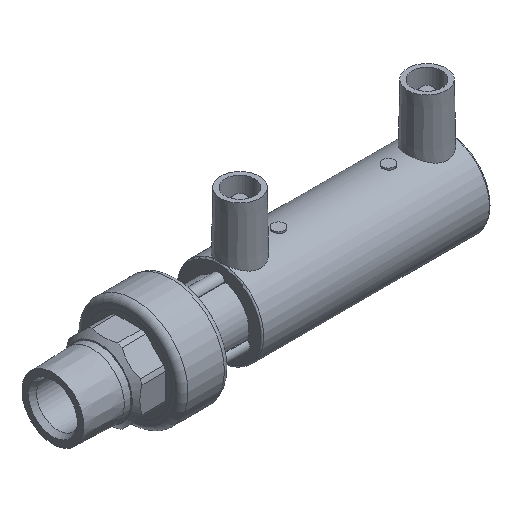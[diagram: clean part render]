
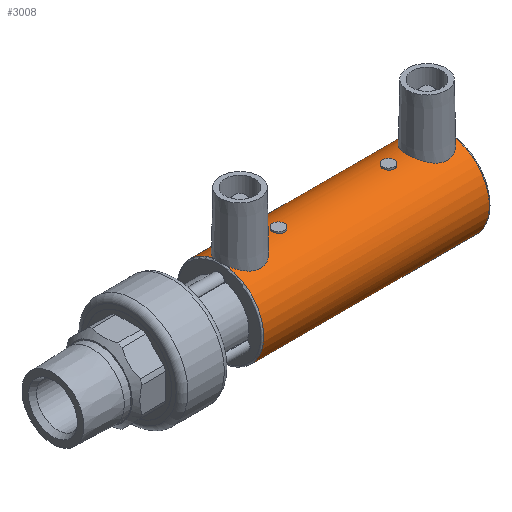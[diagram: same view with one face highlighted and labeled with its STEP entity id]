
A CAD part, isometric view. The second image highlights one B-rep face of the part: STEP entity #3008.
In plain terms, the highlighted cylindrical face has radius 14.5 mm (diameter 29 mm), a full revolution.
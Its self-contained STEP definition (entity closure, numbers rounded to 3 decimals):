
#567=CIRCLE('',#3757,14.5);
#568=CIRCLE('',#3758,14.5);
#766=ORIENTED_EDGE('',*,*,#1628,.F.);
#767=ORIENTED_EDGE('',*,*,#1629,.F.);
#768=ORIENTED_EDGE('',*,*,#1630,.T.);
#769=ORIENTED_EDGE('',*,*,#1631,.T.);
#770=ORIENTED_EDGE('',*,*,#1632,.T.);
#771=ORIENTED_EDGE('',*,*,#1633,.T.);
#1628=EDGE_CURVE('',#2059,#2059,#2360,.T.);
#1629=EDGE_CURVE('',#2060,#2060,#2361,.T.);
#1630=EDGE_CURVE('',#2061,#2062,#567,.F.);
#1631=EDGE_CURVE('',#2062,#2061,#2362,.T.);
#1632=EDGE_CURVE('',#2063,#2064,#568,.F.);
#1633=EDGE_CURVE('',#2064,#2063,#2363,.T.);
#2059=VERTEX_POINT('',#5132);
#2060=VERTEX_POINT('',#5144);
#2061=VERTEX_POINT('',#5146);
#2062=VERTEX_POINT('',#5147);
#2063=VERTEX_POINT('',#5168);
#2064=VERTEX_POINT('',#5169);
#2360=B_SPLINE_CURVE_WITH_KNOTS('',3,(#5121,#5122,#5123,#5124,#5125,#5126,
#5127,#5128,#5129,#5130,#5131),.UNSPECIFIED.,.T.,.F.,(1,1,1,1,1,1,1,1,1,
1,1,1,1,1,1),(-0.005,-0.003,-0.002,
0.,0.002,0.003,0.005,
0.006,0.008,0.009,0.011,
0.013,0.014,0.016,0.017),
 .UNSPECIFIED.);
#2361=B_SPLINE_CURVE_WITH_KNOTS('',3,(#5133,#5134,#5135,#5136,#5137,#5138,
#5139,#5140,#5141,#5142,#5143),.UNSPECIFIED.,.T.,.F.,(1,1,1,1,1,1,1,1,1,
1,1,1,1,1,1),(-0.005,-0.003,-0.002,
0.,0.002,0.003,0.005,
0.006,0.008,0.009,0.011,
0.013,0.014,0.016,0.017),
 .UNSPECIFIED.);
#2362=B_SPLINE_CURVE_WITH_KNOTS('',3,(#5148,#5149,#5150,#5151,#5152,#5153,
#5154,#5155,#5156,#5157,#5158,#5159,#5160,#5161,#5162,#5163,#5164,#5165,
#5166),.UNSPECIFIED.,.F.,.F.,(4,1,1,1,1,1,1,1,1,1,1,1,1,1,1,1,4),(0.,
0.002,0.005,0.007,0.01,
0.012,0.015,0.017,0.02,
0.022,0.024,0.027,0.029,
0.032,0.034,0.037,0.039),
 .UNSPECIFIED.);
#2363=B_SPLINE_CURVE_WITH_KNOTS('',3,(#5170,#5171,#5172,#5173,#5174,#5175,
#5176,#5177,#5178,#5179,#5180,#5181,#5182,#5183,#5184,#5185,#5186,#5187,
#5188),.UNSPECIFIED.,.F.,.F.,(4,1,1,1,1,1,1,1,1,1,1,1,1,1,1,1,4),(0.,
0.002,0.005,0.007,0.01,
0.012,0.015,0.017,0.02,
0.022,0.024,0.027,0.029,
0.032,0.034,0.037,0.039),
 .UNSPECIFIED.);
#2404=EDGE_LOOP('',(#766));
#2405=EDGE_LOOP('',(#767));
#2406=EDGE_LOOP('',(#768,#769));
#2407=EDGE_LOOP('',(#770,#771));
#2680=FACE_BOUND('',#2404,.T.);
#2681=FACE_BOUND('',#2405,.T.);
#2682=FACE_BOUND('',#2406,.T.);
#2683=FACE_BOUND('',#2407,.T.);
#2956=CYLINDRICAL_SURFACE('',#3756,14.5);
#3008=ADVANCED_FACE('',(#2680,#2681,#2682,#2683),#2956,.T.);
#3756=AXIS2_PLACEMENT_3D('',#5120,#4149,#4150);
#3757=AXIS2_PLACEMENT_3D('',#5145,#4151,#4152);
#3758=AXIS2_PLACEMENT_3D('',#5167,#4153,#4154);
#4149=DIRECTION('',(-1.,0.,0.));
#4150=DIRECTION('',(0.,0.,1.));
#4151=DIRECTION('',(-1.,0.,0.));
#4152=DIRECTION('',(0.,0.,1.));
#4153=DIRECTION('',(1.,0.,0.));
#4154=DIRECTION('',(0.,0.,-1.));
#5120=CARTESIAN_POINT('',(-60.,0.,0.));
#5121=CARTESIAN_POINT('',(20.066,-1.569,14.431));
#5122=CARTESIAN_POINT('',(20.717,0.,14.535));
#5123=CARTESIAN_POINT('',(20.066,1.567,14.431));
#5124=CARTESIAN_POINT('',(18.502,2.216,14.327));
#5125=CARTESIAN_POINT('',(16.933,1.568,14.431));
#5126=CARTESIAN_POINT('',(16.284,0.,14.534));
#5127=CARTESIAN_POINT('',(16.931,-1.565,14.431));
#5128=CARTESIAN_POINT('',(18.498,-2.216,14.327));
#5129=CARTESIAN_POINT('',(20.066,-1.569,14.431));
#5130=CARTESIAN_POINT('',(20.717,0.,14.535));
#5131=CARTESIAN_POINT('',(20.066,1.567,14.431));
#5132=CARTESIAN_POINT('',(20.5,0.,14.5));
#5133=CARTESIAN_POINT('',(-16.934,-1.569,14.431));
#5134=CARTESIAN_POINT('',(-16.283,0.,14.535));
#5135=CARTESIAN_POINT('',(-16.934,1.567,14.431));
#5136=CARTESIAN_POINT('',(-18.498,2.216,14.327));
#5137=CARTESIAN_POINT('',(-20.067,1.568,14.431));
#5138=CARTESIAN_POINT('',(-20.716,0.,14.534));
#5139=CARTESIAN_POINT('',(-20.069,-1.565,14.431));
#5140=CARTESIAN_POINT('',(-18.502,-2.216,14.327));
#5141=CARTESIAN_POINT('',(-16.934,-1.569,14.431));
#5142=CARTESIAN_POINT('',(-16.283,0.,14.535));
#5143=CARTESIAN_POINT('',(-16.934,1.567,14.431));
#5144=CARTESIAN_POINT('',(-16.5,0.,14.5));
#5145=CARTESIAN_POINT('',(-38.,0.,0.));
#5146=CARTESIAN_POINT('',(-38.,-2.083,14.35));
#5147=CARTESIAN_POINT('',(-38.,2.083,14.35));
#5148=CARTESIAN_POINT('',(-38.,2.083,14.35));
#5149=CARTESIAN_POINT('',(-37.752,2.865,14.236));
#5150=CARTESIAN_POINT('',(-36.993,4.294,13.897));
#5151=CARTESIAN_POINT('',(-35.204,5.922,13.261));
#5152=CARTESIAN_POINT('',(-32.937,6.851,12.782));
#5153=CARTESIAN_POINT('',(-30.427,6.92,12.743));
#5154=CARTESIAN_POINT('',(-28.093,6.101,13.176));
#5155=CARTESIAN_POINT('',(-26.228,4.566,13.808));
#5156=CARTESIAN_POINT('',(-24.982,2.472,14.352));
#5157=CARTESIAN_POINT('',(-24.528,0.018,14.573));
#5158=CARTESIAN_POINT('',(-24.97,-2.444,14.357));
#5159=CARTESIAN_POINT('',(-26.213,-4.549,13.813));
#5160=CARTESIAN_POINT('',(-28.074,-6.089,13.181));
#5161=CARTESIAN_POINT('',(-30.393,-6.914,12.746));
#5162=CARTESIAN_POINT('',(-32.912,-6.859,12.778));
#5163=CARTESIAN_POINT('',(-35.197,-5.928,13.258));
#5164=CARTESIAN_POINT('',(-36.987,-4.303,13.895));
#5165=CARTESIAN_POINT('',(-37.751,-2.865,14.236));
#5166=CARTESIAN_POINT('',(-38.,-2.083,14.35));
#5167=CARTESIAN_POINT('',(38.,0.,0.));
#5168=CARTESIAN_POINT('',(38.,2.083,14.35));
#5169=CARTESIAN_POINT('',(38.,-2.083,14.35));
#5170=CARTESIAN_POINT('',(38.,-2.083,14.35));
#5171=CARTESIAN_POINT('',(37.752,-2.865,14.236));
#5172=CARTESIAN_POINT('',(36.993,-4.294,13.897));
#5173=CARTESIAN_POINT('',(35.204,-5.922,13.261));
#5174=CARTESIAN_POINT('',(32.937,-6.851,12.782));
#5175=CARTESIAN_POINT('',(30.427,-6.92,12.743));
#5176=CARTESIAN_POINT('',(28.093,-6.101,13.176));
#5177=CARTESIAN_POINT('',(26.228,-4.566,13.808));
#5178=CARTESIAN_POINT('',(24.982,-2.472,14.352));
#5179=CARTESIAN_POINT('',(24.528,-0.018,14.573));
#5180=CARTESIAN_POINT('',(24.97,2.444,14.357));
#5181=CARTESIAN_POINT('',(26.213,4.549,13.813));
#5182=CARTESIAN_POINT('',(28.074,6.089,13.181));
#5183=CARTESIAN_POINT('',(30.393,6.914,12.746));
#5184=CARTESIAN_POINT('',(32.912,6.859,12.778));
#5185=CARTESIAN_POINT('',(35.197,5.928,13.258));
#5186=CARTESIAN_POINT('',(36.987,4.303,13.895));
#5187=CARTESIAN_POINT('',(37.751,2.865,14.236));
#5188=CARTESIAN_POINT('',(38.,2.083,14.35));
